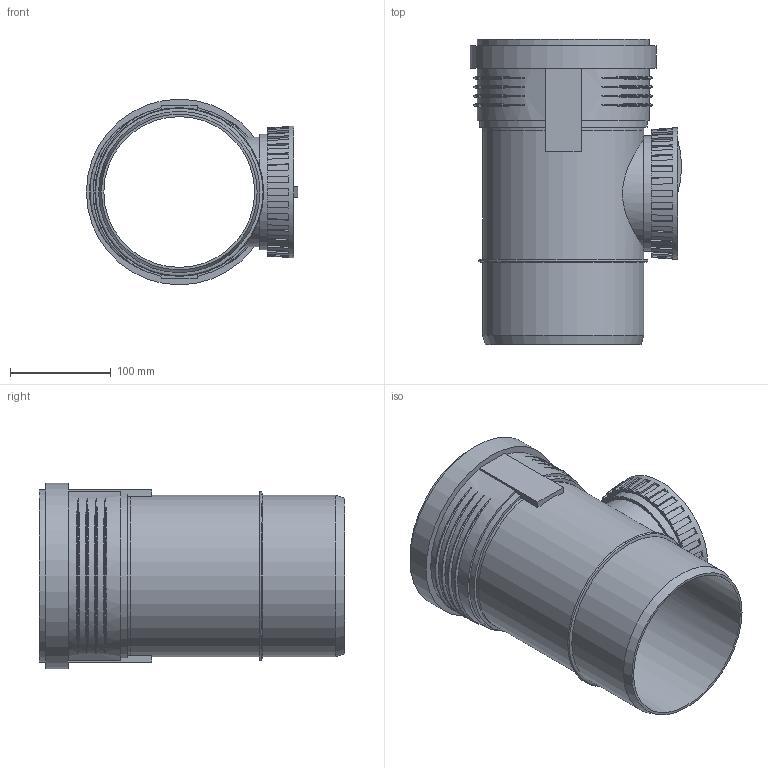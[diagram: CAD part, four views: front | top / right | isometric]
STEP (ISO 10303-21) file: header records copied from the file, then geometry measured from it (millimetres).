
FILE_DESCRIPTION(/* description */ (''),/* implementation_level */ '2;1');
FILE_NAME(/* name */ 'Z:\Geberit\Export\NewStep\390727.stp',/* time_stamp */ '2014-04-02T08:16:44+02:00',/* author */ ('ML'),/* organization */ (''),/* preprocessor_version */ 'ST-DEVELOPER v15.2',/* originating_system */ 'Autodesk Inventor 2014',/* authorisation */ '');
FILE_SCHEMA (('AUTOMOTIVE_DESIGN { 1 0 10303 214 3 1 1 }'));
Length unit declared in the file: millimetre
Products named in the file (4): 861642; 861560; 861486; 390727
Bounding box: 209.82 x 303 x 184.5 mm (x, y, z)
Volume: 1004805.4 mm3; surface area: 423559.4 mm2
Topology: 3 solids, 3 shells, 217 faces, 587 edges, 393 vertices
Faces by surface type: plane 158, torus 27, cylinder 22, cone 10
Full cylindrical faces by diameter (mm): 102.5 x1, 114.65 x1, 149.85 x1, 150.65 x1, 160.25 x3, 161.7 x2, 171.3 x1, 174.9 x1, 184.5 x1
Entity records: 7709 total; most frequent: CARTESIAN_POINT 2211, ORIENTED_EDGE 1130, DIRECTION 1022, EDGE_CURVE 563, VERTEX_POINT 390, AXIS2_PLACEMENT_3D 361, LINE 300, VECTOR 300
